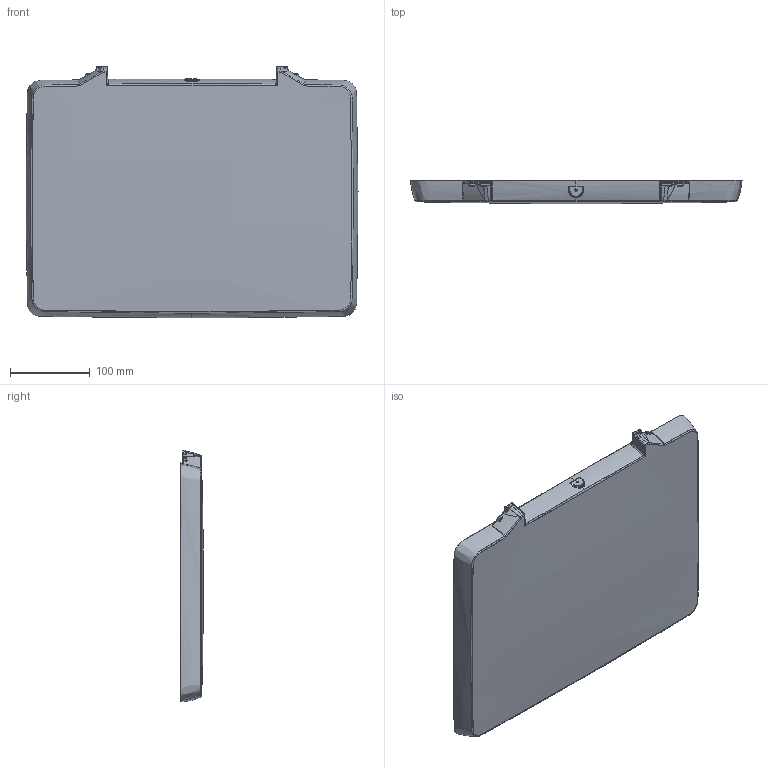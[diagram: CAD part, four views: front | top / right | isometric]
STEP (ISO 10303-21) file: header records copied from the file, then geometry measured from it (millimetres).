
FILE_DESCRIPTION (( 'STEP AP214' ), '1' );
FILE_NAME ('1091-932B-CLR OEM.STEP', '2013-03-27T20:16:15', ( 'peli' ), ( '' ), 'SwSTEP 2.0', 'SolidWorks 2011', '' );
FILE_SCHEMA (( 'AUTOMOTIVE_DESIGN' ));
Length unit declared in the file: millimetre
Products named in the file (1): 1091-932B-CLR OEM
Bounding box: 416.27 x 28.68 x 315.45 mm (x, y, z)
Volume: 28981.6 mm3; surface area: 304683.3 mm2
Topology: 1 solids, 1 shells, 330 faces, 828 edges, 472 vertices
Faces by surface type: bspline 316, plane 12, cone 2
Entity records: 47109 total; most frequent: CARTESIAN_POINT 38050, ORIENTED_EDGE 1620, EDGE_CURVE 810, B_SPLINE_CURVE_WITH_KNOTS 563, VERTEX_POINT 472, DIRECTION 405, UNCERTAINTY_MEASURE_WITH_UNIT 333, EDGE_LOOP 332
